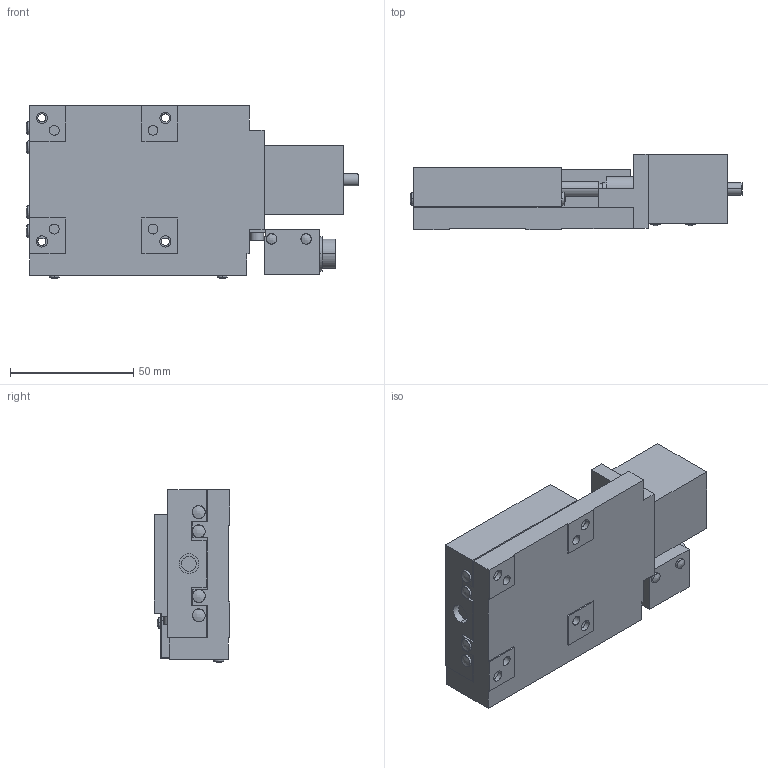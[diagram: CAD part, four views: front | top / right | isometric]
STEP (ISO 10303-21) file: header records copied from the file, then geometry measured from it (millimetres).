
FILE_DESCRIPTION (( 'STEP AP203' ), '1' );
FILE_NAME ('ALS-6012-G1L.STEP', '2021-10-12T08:04:25', ( '' ), ( '' ), 'SwSTEP 2.0', 'SolidWorks 2016', '' );
FILE_SCHEMA (( 'CONFIG_CONTROL_DESIGN' ));
Length unit declared in the file: millimetre
Products named in the file (3): ALS-6012-G1L; ALS-6012-G1L-2; ALS-6012-G1L-1
Assembly tree (2 placements, depth 2):
  ALS-6012-G1L
    ALS-6012-G1L-1
    ALS-6012-G1L-2
Bounding box: 134.44 x 30.5 x 69.96 mm (x, y, z)
Volume: 154481.2 mm3; surface area: 50383.4 mm2
Topology: 2 solids, 2 shells, 271 faces, 665 edges, 432 vertices
Faces by surface type: plane 142, cylinder 87, cone 28, bspline 14
Entity records: 11116 total; most frequent: CARTESIAN_POINT 4225, DIRECTION 1387, ORIENTED_EDGE 1330, EDGE_CURVE 665, AXIS2_PLACEMENT_3D 490, VERTEX_POINT 432, VECTOR 407, LINE 407
